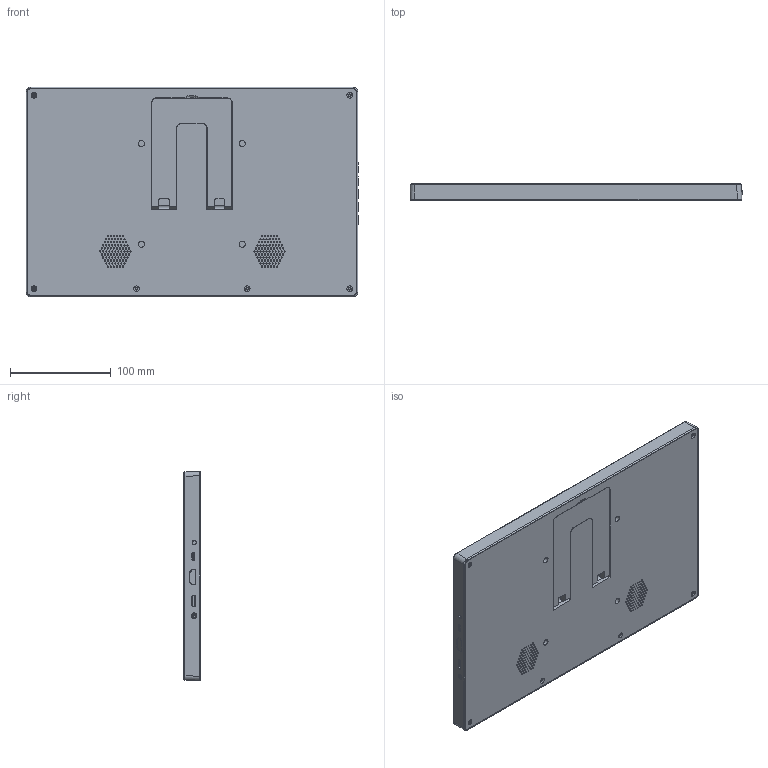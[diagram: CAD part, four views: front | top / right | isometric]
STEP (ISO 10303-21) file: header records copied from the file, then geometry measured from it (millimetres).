
FILE_DESCRIPTION((''),'2;1');
FILE_NAME('WX-2018-5-21-13_3_SW0002','2021-07-07T16:37:13',('zhanxiaohua'),(''),'CREO PARAMETRIC BY PTC INC, 2020154','CREO PARAMETRIC BY PTC INC, 2020154','');
FILE_SCHEMA(('CONFIG_CONTROL_DESIGN','GEOMETRIC_VALIDATION_PROPERTIES_MIM'));
Products named in the file (1): WX-2018-5-21-13_3_SW0002
Bounding box: 329.73 x 16.6 x 207.97 mm (x, y, z)
Volume: 484963.6 mm3; surface area: 462123.2 mm2
Topology: 1 solids, 1 shells, 2854 faces, 8272 edges, 5439 vertices
Faces by surface type: plane 1775, cylinder 986, cone 36, torus 28, bspline 17, sphere 12
Entity records: 109613 total; most frequent: CARTESIAN_POINT 19643, ORIENTED_EDGE 16532, DIRECTION 15799, EDGE_CURVE 8266, VECTOR 5833, LINE 5833, VERTEX_POINT 5439, AXIS2_PLACEMENT_3D 4983
